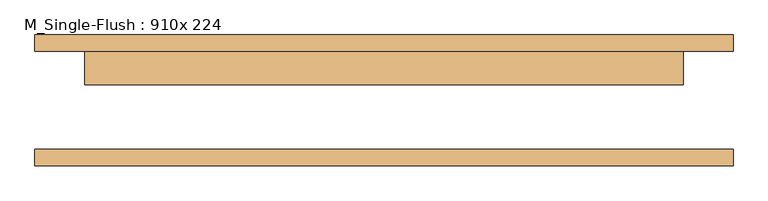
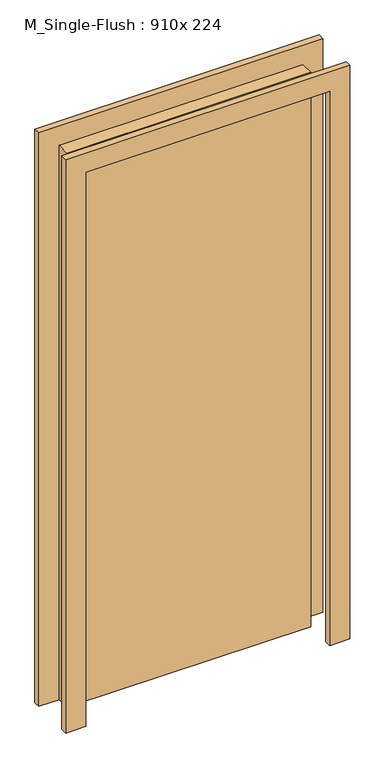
"""IFC4 building model written with IfcOpenShell, lengths in millimetres: door geometry, M_Single-Flush : 910x 224."""

from ifc_helpers import new_model, si_unit, frame, origin, origin_with_axes, place, context, project, spatial, polyline, outline, extrude, source, transform, mapped, element, save


def m_single_flush_910x_224_a4f79d59(model_context):
    return source(origin(), model_context, "Body", "SweptSolid", [
        extrude(outline(polyline([(2276.0, -533.5), (0.0, -533.5), (0.0, -457.5), (2200.0, -457.5), (2200.0, 457.5), (0.0, 457.5), (0.0, 533.5), (2276.0, 533.5), (2276.0, -533.5)])), frame((0.0, 75.0, 0.0), z_axis=(0.0, 1.0, 0.0), x_axis=(0.0, 0.0, 1.0)), (0.0, 0.0, 1.0), 25.0),
        extrude(outline(polyline([(2276.0, 533.5), (2276.0, -533.5), (0.0, -533.5), (0.0, -457.5), (2200.0, -457.5), (2200.0, 457.5), (0.0, 457.5), (0.0, 533.5), (2276.0, 533.5)])), frame((0.0, -100.0, 0.0), z_axis=(0.0, 1.0, 0.0), x_axis=(0.0, 0.0, 1.0)), (0.0, 0.0, 1.0), 25.0),
        extrude(outline(polyline([(457.5, 24.0), (-457.5, 24.0), (-457.5, 75.0), (457.5, 75.0), (457.5, 24.0)])), origin_with_axes(), (0.0, 0.0, 1.0), 2200.0),
    ])


if __name__ == "__main__":
    model = new_model("IFC4")
    model_context = context("Model", 3, world=origin())
    ifc_project = project(units=[si_unit("LENGTHUNIT", "METRE", prefix="MILLI")], contexts=[model_context])
    site = spatial("IfcSite", under=ifc_project)
    building = spatial("IfcBuilding", under=site)
    placement = place(None, origin())
    m_single_flush_910x_224_shape = m_single_flush_910x_224_a4f79d59(model_context)
    element("IfcDoor", 1, ObjectType="M_Single-Flush : 910x 224", at=placement, inside=building, context=model_context, shape_type="MappedRepresentation", body=[
        mapped(m_single_flush_910x_224_shape, transform((0.0, 0.0, 0.0), x_axis=(1.0, 0.0, 0.0), y_axis=(0.0, 1.0, 0.0), z_axis=(0.0, 0.0, 1.0))),
    ])
    save(model, "model.ifc")
